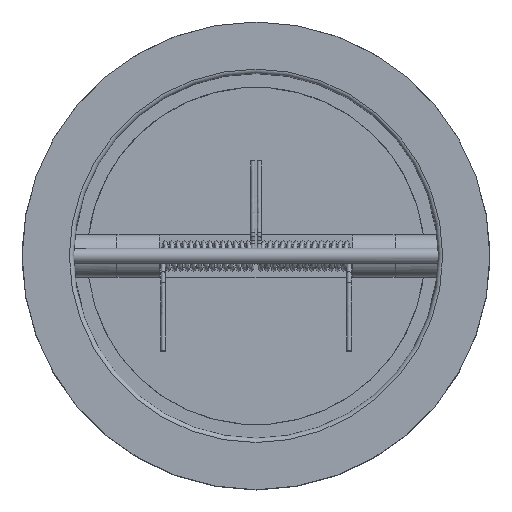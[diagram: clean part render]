
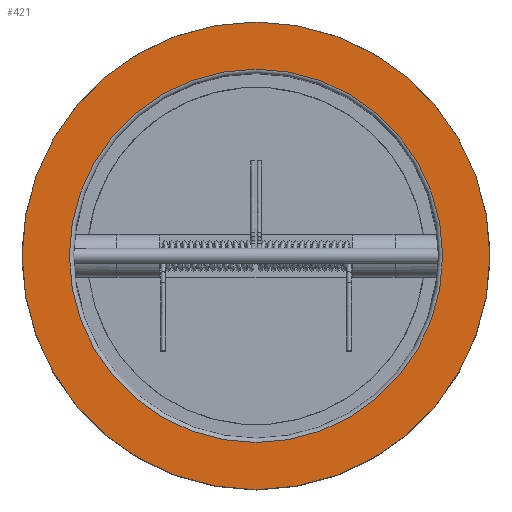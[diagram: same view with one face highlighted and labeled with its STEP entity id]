
A CAD part, top view. The second image highlights one B-rep face of the part: STEP entity #421.
In plain terms, the highlighted planar face has unit normal (0, 0, 1).
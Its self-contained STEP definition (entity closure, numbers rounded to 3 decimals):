
#421 = ADVANCED_FACE( '', ( #1058, #1059 ), #1060, .F. );
#1058 = FACE_BOUND( '', #3939, .T. );
#1059 = FACE_OUTER_BOUND( '', #3940, .T. );
#1060 = PLANE( '', #3941 );
#3939 = EDGE_LOOP( '', ( #13915 ) );
#3940 = EDGE_LOOP( '', ( #13916 ) );
#3941 = AXIS2_PLACEMENT_3D( '', #13917, #13918, #13919 );
#13915 = ORIENTED_EDGE( '', *, *, #15878, .T. );
#13916 = ORIENTED_EDGE( '', *, *, #15879, .F. );
#13917 = CARTESIAN_POINT( '', ( 0., 0., 38. ) );
#13918 = DIRECTION( '', ( 0., 0., -1. ) );
#13919 = DIRECTION( '', ( -1., 0., 0. ) );
#15878 = EDGE_CURVE( '', #16956, #16956, #16957, .T. );
#15879 = EDGE_CURVE( '', #16958, #16958, #16959, .T. );
#16956 = VERTEX_POINT( '', #19367 );
#16957 = CIRCLE( '', #19368, 87. );
#16958 = VERTEX_POINT( '', #19369 );
#16959 = CIRCLE( '', #19370, 109. );
#19367 = CARTESIAN_POINT( '', ( -87., 0., 38. ) );
#19368 = AXIS2_PLACEMENT_3D( '', #25254, #25255, #25256 );
#19369 = CARTESIAN_POINT( '', ( 109., 0., 38. ) );
#19370 = AXIS2_PLACEMENT_3D( '', #25257, #25258, #25259 );
#25254 = CARTESIAN_POINT( '', ( 0., 0., 38. ) );
#25255 = DIRECTION( '', ( 0., 0., -1. ) );
#25256 = DIRECTION( '', ( -1., 0., 0. ) );
#25257 = CARTESIAN_POINT( '', ( 0., 0., 38. ) );
#25258 = DIRECTION( '', ( 0., 0., -1. ) );
#25259 = DIRECTION( '', ( 1., 0., 0. ) );
